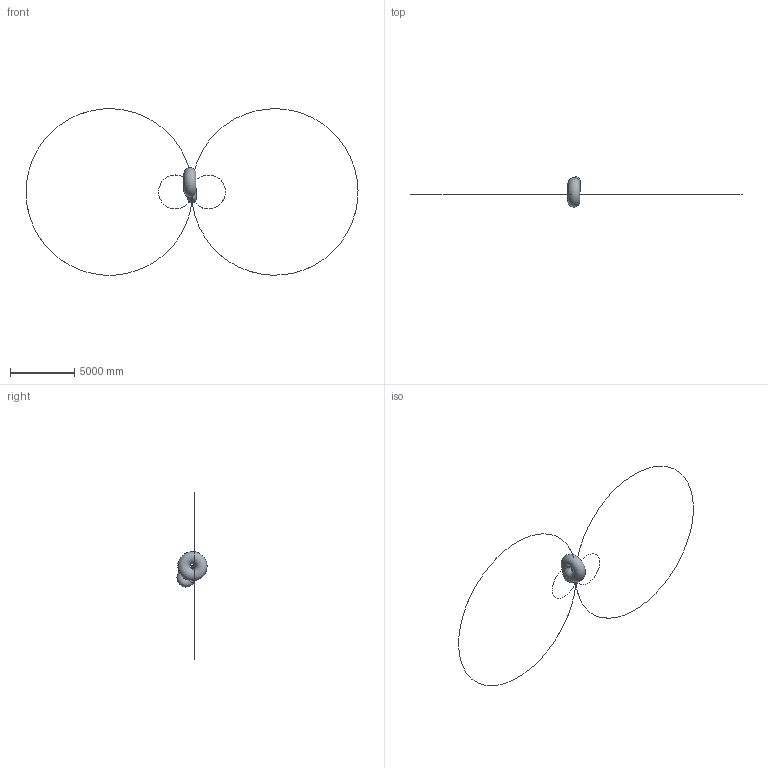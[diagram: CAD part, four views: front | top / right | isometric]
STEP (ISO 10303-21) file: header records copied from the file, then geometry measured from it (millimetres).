
FILE_DESCRIPTION((''),'2;1');
FILE_NAME('SK6_COMPLETE_ASM_ASM','2007-10-26T',('wongch01'),(''),'PRO/ENGINEER BY PARAMETRIC TECHNOLOGY CORPORATION, 2007160','PRO/ENGINEER BY PARAMETRIC TECHNOLOGY CORPORATION, 2007160','');
FILE_SCHEMA(('CONFIG_CONTROL_DESIGN'));
Products named in the file (2): _SK6_COMPLETE_ASM; SK6_COMPLETE_ASM_ASM
Assembly tree (1 placements, depth 2):
  SK6_COMPLETE_ASM_ASM
    _SK6_COMPLETE_ASM
Bounding box: 25778.95 x 2342.16 x 12918.81 mm (x, y, z)
Surface area: 22155233.1 mm2 (no closed solid volume)
Topology: 0 solids, 0 shells, 6659 faces, 40500 edges, 40308 vertices
Faces by surface type: bspline 6205, torus 365, sphere 89
Entity records: 753781 total; most frequent: CARTESIAN_POINT 412175, DIRECTION 47219, TRIMMED_CURVE 42577, DEFINITIONAL_REPRESENTATION 40106, PCURVE 40106, COMPOSITE_CURVE_SEGMENT 40106, VECTOR 38849, LINE 38849
